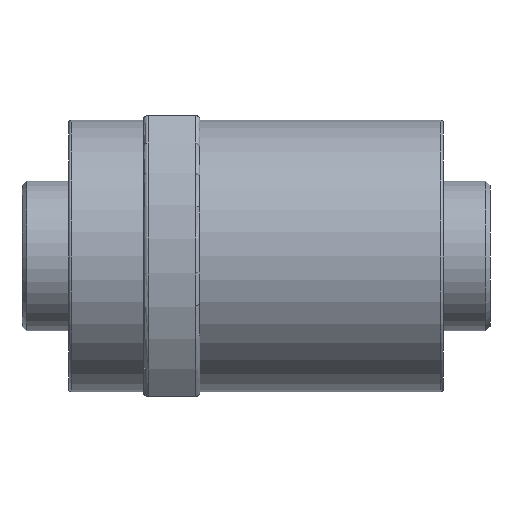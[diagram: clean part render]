
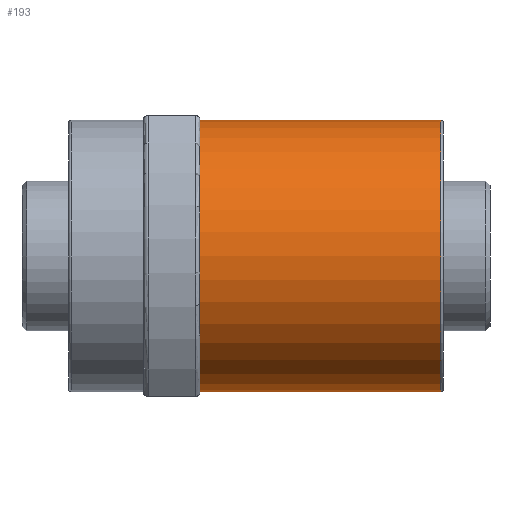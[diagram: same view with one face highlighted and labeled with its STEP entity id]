
A CAD part, front view. The second image highlights one B-rep face of the part: STEP entity #193.
In plain terms, the highlighted cylindrical face has radius 29 mm (diameter 58 mm), a partial arc.
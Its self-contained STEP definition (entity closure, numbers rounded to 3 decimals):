
#36 = EDGE_CURVE ( 'NONE', #1545, #564, #694, .T. ) ;
#53 = EDGE_CURVE ( 'NONE', #1545, #649, #1727, .T. ) ;
#59 = DIRECTION ( 'NONE',  ( 1., 0., 0. ) ) ;
#159 = VECTOR ( 'NONE', #696, 1000. ) ;
#183 = LINE ( 'NONE', #724, #159 ) ;
#193 = ADVANCED_FACE ( 'NONE', ( #2275 ), #1673, .T. ) ;
#245 = DIRECTION ( 'NONE',  ( 1., 0., 0. ) ) ;
#300 = DIRECTION ( 'NONE',  ( -1., 0., 0. ) ) ;
#368 = ORIENTED_EDGE ( 'NONE', *, *, #36, .T. ) ;
#443 = EDGE_CURVE ( 'NONE', #564, #1289, #183, .T. ) ;
#564 = VERTEX_POINT ( 'NONE', #698 ) ;
#649 = VERTEX_POINT ( 'NONE', #1707 ) ;
#694 = CIRCLE ( 'NONE', #975, 29. ) ;
#696 = DIRECTION ( 'NONE',  ( 1., 0., 0. ) ) ;
#698 = CARTESIAN_POINT ( 'NONE',  ( 28., 0., -29. ) ) ;
#724 = CARTESIAN_POINT ( 'NONE',  ( 28., 0., -29. ) ) ;
#770 = ORIENTED_EDGE ( 'NONE', *, *, #1454, .T. ) ;
#827 = DIRECTION ( 'NONE',  ( 1., 0., 0. ) ) ;
#887 = ORIENTED_EDGE ( 'NONE', *, *, #53, .F. ) ;
#975 = AXIS2_PLACEMENT_3D ( 'NONE', #2378, #245, #1979 ) ;
#1020 = CARTESIAN_POINT ( 'NONE',  ( 28., 0., 0. ) ) ;
#1140 = CARTESIAN_POINT ( 'NONE',  ( 79.5, 0., -29. ) ) ;
#1197 = CARTESIAN_POINT ( 'NONE',  ( 28., 0., 29. ) ) ;
#1219 = ORIENTED_EDGE ( 'NONE', *, *, #443, .T. ) ;
#1289 = VERTEX_POINT ( 'NONE', #1140 ) ;
#1371 = EDGE_LOOP ( 'NONE', ( #887, #368, #1219, #770 ) ) ;
#1383 = DIRECTION ( 'NONE',  ( 0., 0., -1. ) ) ;
#1404 = CIRCLE ( 'NONE', #1458, 29. ) ;
#1416 = DIRECTION ( 'NONE',  ( 0., 0., -1. ) ) ;
#1454 = EDGE_CURVE ( 'NONE', #1289, #649, #1404, .T. ) ;
#1458 = AXIS2_PLACEMENT_3D ( 'NONE', #2227, #300, #1416 ) ;
#1471 = AXIS2_PLACEMENT_3D ( 'NONE', #1020, #59, #1383 ) ;
#1545 = VERTEX_POINT ( 'NONE', #1829 ) ;
#1673 = CYLINDRICAL_SURFACE ( 'NONE', #1471, 29. ) ;
#1707 = CARTESIAN_POINT ( 'NONE',  ( 79.5, 0., 29. ) ) ;
#1727 = LINE ( 'NONE', #1197, #2422 ) ;
#1829 = CARTESIAN_POINT ( 'NONE',  ( 28., 0., 29. ) ) ;
#1979 = DIRECTION ( 'NONE',  ( 0., 0., -1. ) ) ;
#2227 = CARTESIAN_POINT ( 'NONE',  ( 79.5, 0., 0. ) ) ;
#2275 = FACE_OUTER_BOUND ( 'NONE', #1371, .T. ) ;
#2378 = CARTESIAN_POINT ( 'NONE',  ( 28., 0., 0. ) ) ;
#2422 = VECTOR ( 'NONE', #827, 1000. ) ;
